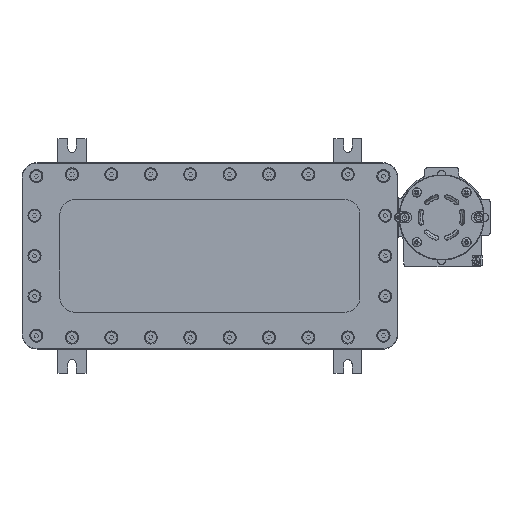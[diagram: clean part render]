
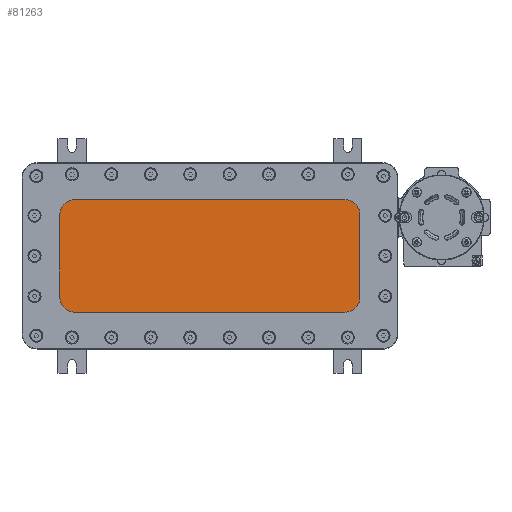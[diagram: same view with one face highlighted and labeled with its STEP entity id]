
A CAD part, top view. The second image highlights one B-rep face of the part: STEP entity #81263.
In plain terms, the highlighted planar face has unit normal (0, 0, 1).
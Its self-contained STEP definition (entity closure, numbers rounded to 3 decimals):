
#81188=CARTESIAN_POINT('',(0.,0.,0.));
#81189=DIRECTION('',(0.0,0.0,1.0));
#81190=DIRECTION('',(0.0,1.0,0.0));
#81191=AXIS2_PLACEMENT_3D('',#81188,#81189,#81190);
#81192=PLANE('',#81191);
#81193=CARTESIAN_POINT('',(-144.,60.,0.));
#81194=VERTEX_POINT('',#81193);
#81195=CARTESIAN_POINT('',(-160.,44.,0.));
#81196=VERTEX_POINT('',#81195);
#81197=CARTESIAN_POINT('',(-144.,44.,0.));
#81198=DIRECTION('',(0.,0.,1.0));
#81199=DIRECTION('',(-0.707,0.707,0.));
#81200=AXIS2_PLACEMENT_3D('',#81197,#81198,#81199);
#81201=CIRCLE('',#81200,16.0);
#81202=EDGE_CURVE('',#81194,#81196,#81201,.T.);
#81203=ORIENTED_EDGE('',*,*,#81202,.T.);
#81204=CARTESIAN_POINT('',(-160.,-44.,0.));
#81205=VERTEX_POINT('',#81204);
#81206=CARTESIAN_POINT('',(-160.,44.,0.));
#81207=DIRECTION('',(0.0,-1.0,0.0));
#81208=VECTOR('',#81207,88.);
#81209=LINE('',#81206,#81208);
#81210=EDGE_CURVE('',#81196,#81205,#81209,.T.);
#81211=ORIENTED_EDGE('',*,*,#81210,.T.);
#81212=CARTESIAN_POINT('',(-144.,-60.,0.));
#81213=VERTEX_POINT('',#81212);
#81214=CARTESIAN_POINT('',(-144.,-44.,0.));
#81215=DIRECTION('',(0.,0.,1.0));
#81216=DIRECTION('',(-0.707,-0.707,0.));
#81217=AXIS2_PLACEMENT_3D('',#81214,#81215,#81216);
#81218=CIRCLE('',#81217,16.0);
#81219=EDGE_CURVE('',#81205,#81213,#81218,.T.);
#81220=ORIENTED_EDGE('',*,*,#81219,.T.);
#81221=CARTESIAN_POINT('',(144.,-60.,0.));
#81222=VERTEX_POINT('',#81221);
#81223=CARTESIAN_POINT('',(-144.,-60.,0.));
#81224=DIRECTION('',(1.0,0.0,0.0));
#81225=VECTOR('',#81224,288.0);
#81226=LINE('',#81223,#81225);
#81227=EDGE_CURVE('',#81213,#81222,#81226,.T.);
#81228=ORIENTED_EDGE('',*,*,#81227,.T.);
#81229=CARTESIAN_POINT('',(160.,-44.,0.));
#81230=VERTEX_POINT('',#81229);
#81231=CARTESIAN_POINT('',(144.,-44.,0.));
#81232=DIRECTION('',(0.,0.,1.0));
#81233=DIRECTION('',(0.707,-0.707,0.));
#81234=AXIS2_PLACEMENT_3D('',#81231,#81232,#81233);
#81235=CIRCLE('',#81234,16.0);
#81236=EDGE_CURVE('',#81222,#81230,#81235,.T.);
#81237=ORIENTED_EDGE('',*,*,#81236,.T.);
#81238=CARTESIAN_POINT('',(160.,44.,0.));
#81239=VERTEX_POINT('',#81238);
#81240=CARTESIAN_POINT('',(160.,-44.,0.));
#81241=DIRECTION('',(0.0,1.0,0.0));
#81242=VECTOR('',#81241,88.);
#81243=LINE('',#81240,#81242);
#81244=EDGE_CURVE('',#81230,#81239,#81243,.T.);
#81245=ORIENTED_EDGE('',*,*,#81244,.T.);
#81246=CARTESIAN_POINT('',(144.,60.,0.));
#81247=VERTEX_POINT('',#81246);
#81248=CARTESIAN_POINT('',(144.,44.,0.));
#81249=DIRECTION('',(0.,0.,1.0));
#81250=DIRECTION('',(0.707,0.707,0.));
#81251=AXIS2_PLACEMENT_3D('',#81248,#81249,#81250);
#81252=CIRCLE('',#81251,16.0);
#81253=EDGE_CURVE('',#81239,#81247,#81252,.T.);
#81254=ORIENTED_EDGE('',*,*,#81253,.T.);
#81255=CARTESIAN_POINT('',(144.,60.,0.));
#81256=DIRECTION('',(-1.0,0.0,0.0));
#81257=VECTOR('',#81256,288.0);
#81258=LINE('',#81255,#81257);
#81259=EDGE_CURVE('',#81247,#81194,#81258,.T.);
#81260=ORIENTED_EDGE('',*,*,#81259,.T.);
#81261=EDGE_LOOP('',(#81203,#81211,#81220,#81228,#81237,#81245,#81254,#81260));
#81262=FACE_OUTER_BOUND('',#81261,.T.);
#81263=ADVANCED_FACE('',(#81262),#81192,.T.);
